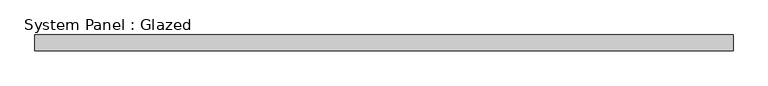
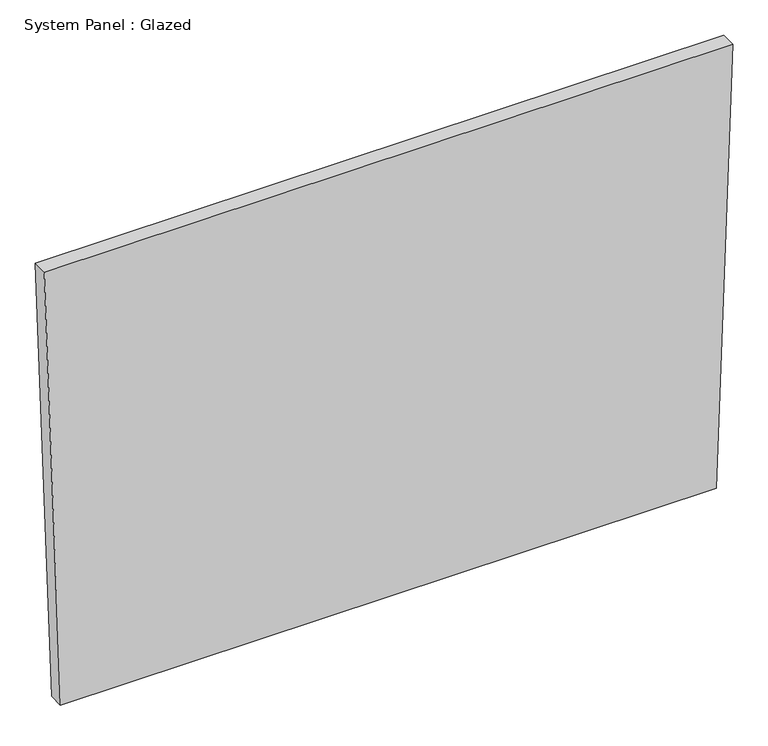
"""IFC4 building model written with IfcOpenShell, lengths in millimetres: plate geometry, System Panel : Glazed."""

import ifcopenshell
import ifcopenshell.guid

model = None  # the IFC model being written
_history = None  # IfcOwnerHistory: only IFC2X3 demands one
_inside = {}  # id of a spatial element -> (the spatial element, [elements in it])
_under = {}  # id of a project, library or spatial element -> (it, [spatial elements below it])
_declared = {}  # id of a project -> (the project, [libraries it declares])
_typed = {}  # id of a type object -> (the type object, [elements of that type])
_made_of = {}  # id of a material, layer set ... -> (it, [elements and type objects made of it])


def new_model(schema):
    """Start an empty IFC model of exactly this schema.

    Asked for "IFC4X3", IfcOpenShell would pick the latest addendum, in which some entities
    have other attributes; the version numbers below select the first issue.
    IFC2X3 requires an IfcOwnerHistory on every rooted entity: one is made here for all.
    """
    global model, _history
    if schema == "IFC4X3":
        model = ifcopenshell.file(schema_version=(4, 3, 0, 0))
    else:
        model = ifcopenshell.file(schema=schema)
    _inside.clear()
    _under.clear()
    _declared.clear()
    _typed.clear()
    _made_of.clear()
    _history = None
    if model.schema == "IFC2X3":
        org = make("IfcOrganization", Name="unknown")
        user = make(
            "IfcPersonAndOrganization",
            ThePerson=make("IfcPerson", FamilyName="unknown"),
            TheOrganization=org,
        )
        app = make(
            "IfcApplication",
            ApplicationDeveloper=org,
            Version="unknown",
            ApplicationFullName="unknown",
            ApplicationIdentifier="unknown",
        )
        _history = make(
            "IfcOwnerHistory",
            OwningUser=user,
            OwningApplication=app,
            ChangeAction="ADDED",
            CreationDate=0,
        )
    return model


def make(cls, **values):
    """One entity of the class cls with the attributes given. An attribute that is None is left unset."""
    return model.create_entity(
        cls, **{name: value for name, value in values.items() if value is not None}
    )


def rooted(cls, **values):
    """An entity with a GlobalId (a new one), such as an element, a storey or a relation."""
    return make(cls, GlobalId=ifcopenshell.guid.new(), OwnerHistory=_history, **values)


def si_unit(unit_type, name, prefix=None):
    """IfcSIUnit, for example si_unit("LENGTHUNIT", "METRE", prefix="MILLI")."""
    return make("IfcSIUnit", UnitType=unit_type, Prefix=prefix, Name=name)


def assignment(units):
    """IfcUnitAssignment: the units of a project."""
    return None if units is None else make("IfcUnitAssignment", Units=units)


def point(xyz):
    """IfcCartesianPoint."""
    return None if xyz is None else make("IfcCartesianPoint", Coordinates=xyz)


def direction(xyz):
    """IfcDirection."""
    return None if xyz is None else make("IfcDirection", DirectionRatios=xyz)


def frame(location, z_axis=None, x_axis=None):
    """IfcAxis2Placement3D, a coordinate frame: its origin and axes. An axis left out is left unset."""
    return make(
        "IfcAxis2Placement3D",
        Location=point(location),
        Axis=direction(z_axis),
        RefDirection=direction(x_axis),
    )


def origin():
    """The frame at (0, 0, 0) with its axes left unset."""
    return frame((0.0, 0.0, 0.0))


def place(relative_to, where):
    """IfcLocalPlacement: puts the frame where relative to a parent placement (None: the world)."""
    return make(
        "IfcLocalPlacement", PlacementRelTo=relative_to, RelativePlacement=where
    )


def context(
    kind, dimensions, precision=None, world=None, true_north=None, identifier=None
):
    """IfcGeometricRepresentationContext, for example the 3D "Model" context."""
    return make(
        "IfcGeometricRepresentationContext",
        ContextIdentifier=identifier,
        ContextType=kind,
        CoordinateSpaceDimension=dimensions,
        Precision=precision,
        WorldCoordinateSystem=world,
        TrueNorth=true_north,
    )


def project(units=None, contexts=None):
    """IfcProject with its units and contexts."""
    return rooted(
        "IfcProject",
        Name="project",
        RepresentationContexts=contexts,
        UnitsInContext=assignment(units),
    )


def spatial(cls, under=None, at=None, **own):
    """A site, building, storey or space (cls), placed at a placement, below another one or the project."""
    s = rooted(cls, ObjectPlacement=at, **own)
    if under is not None:
        _under.setdefault(under.id(), (under, []))[1].append(s)
    return s


def polyline(points):
    """IfcPolyline through the points."""
    return make("IfcPolyline", Points=[point(p) for p in points])


def outline(outer, holes=None, kind="AREA"):
    """IfcArbitraryClosedProfileDef: a profile drawn as a closed curve; with holes, ...WithVoids."""
    if holes is None:
        return make("IfcArbitraryClosedProfileDef", ProfileType=kind, OuterCurve=outer)
    return make(
        "IfcArbitraryProfileDefWithVoids",
        ProfileType=kind,
        OuterCurve=outer,
        InnerCurves=holes,
    )


def extrude(swept, where, along, depth):
    """IfcExtrudedAreaSolid: the profile swept, set in the frame where, extruded along a direction by depth."""
    return make(
        "IfcExtrudedAreaSolid",
        SweptArea=swept,
        Position=where,
        ExtrudedDirection=direction(along),
        Depth=depth,
    )


def shape(context_of_items, identifier, shape_type, items):
    """IfcShapeRepresentation: the items that make up one representation, for example the "Body"."""
    return make(
        "IfcShapeRepresentation",
        ContextOfItems=context_of_items,
        RepresentationIdentifier=identifier,
        RepresentationType=shape_type,
        Items=items,
    )


def source(mapping_origin, context_of_items, identifier, shape_type, items):
    """IfcRepresentationMap: a shape defined once, which mapped items show again and again."""
    return make(
        "IfcRepresentationMap",
        MappingOrigin=mapping_origin,
        MappedRepresentation=shape(context_of_items, identifier, shape_type, items),
    )


def transform(
    local_origin,
    x_axis=None,
    y_axis=None,
    z_axis=None,
    scale=None,
    scale2=None,
    scale3=None,
    uniform=True,
):
    """IfcCartesianTransformationOperator3D, or its non-uniform kind. x_axis, y_axis, z_axis: its Axis1, 2, 3."""
    if uniform:
        return make(
            "IfcCartesianTransformationOperator3D",
            Axis1=direction(x_axis),
            Axis2=direction(y_axis),
            LocalOrigin=point(local_origin),
            Scale=scale,
            Axis3=direction(z_axis),
        )
    return make(
        "IfcCartesianTransformationOperator3DnonUniform",
        Axis1=direction(x_axis),
        Axis2=direction(y_axis),
        LocalOrigin=point(local_origin),
        Scale=scale,
        Axis3=direction(z_axis),
        Scale2=scale2,
        Scale3=scale3,
    )


def mapped(mapping_source, mapping_target):
    """IfcMappedItem: shows the shape of a source again, moved by a transform."""
    return make(
        "IfcMappedItem", MappingSource=mapping_source, MappingTarget=mapping_target
    )


def made_of(thing, what):
    """Note that an element or type object is made of a material, layer set ...; save() writes the relation."""
    if what is not None:
        _made_of.setdefault(what.id(), (what, []))[1].append(thing)
    return thing


def element(
    cls,
    number,
    at=None,
    inside=None,
    cuts=None,
    type_object=None,
    material=None,
    context=None,
    identifier="Body",
    shape_type=None,
    held_by="IfcProductDefinitionShape",
    body=None,
    shapes=None,
    **own,
):
    """One element of the class cls, such as IfcWall. Its Tag is "e" and its number.

    at: its placement. inside: the storey or other place that contains it. cuts: it is an
    opening in that element (IfcRelVoidsElement). A single representation is given by context,
    identifier, shape_type and body (its items); several are given by shapes. held_by: the class
    of the entity that holds the representations. save() writes the other relations.
    """
    e = rooted(cls, Tag="e%d" % number, ObjectPlacement=at, **own)
    if body is not None:
        shapes = [shape(context, identifier, shape_type, body)]
    if shapes is not None:
        e.Representation = make(held_by, Representations=shapes)
    if inside is not None:
        _inside.setdefault(inside.id(), (inside, []))[1].append(e)
    if cuts is not None:
        rooted(
            "IfcRelVoidsElement", RelatingBuildingElement=cuts, RelatedOpeningElement=e
        )
    if type_object is not None:
        _typed.setdefault(type_object.id(), (type_object, []))[1].append(e)
    return made_of(e, material)


def aggregate(whole, parts):
    """IfcRelAggregates: a whole, such as a stair, and the parts it consists of."""
    return rooted("IfcRelAggregates", RelatingObject=whole, RelatedObjects=parts)


def save(model, path):
    """Write the relations noted so far, then the file.

    IfcRelAggregates (storeys below a building ...), IfcRelContainedInSpatialStructure (elements
    in a storey), IfcRelDefinesByType, IfcRelAssociatesMaterial and IfcRelDeclares: one each for
    every whole, place, type object, material and project.
    """
    for whole, parts in _under.values():
        aggregate(whole, parts)
    for where, things in _inside.values():
        rooted(
            "IfcRelContainedInSpatialStructure",
            RelatedElements=things,
            RelatingStructure=where,
        )
    for kind, things in _typed.values():
        rooted("IfcRelDefinesByType", RelatedObjects=things, RelatingType=kind)
    for what, things in _made_of.values():
        rooted("IfcRelAssociatesMaterial", RelatedObjects=things, RelatingMaterial=what)
    for by, libraries in _declared.values():
        rooted("IfcRelDeclares", RelatingContext=by, RelatedDefinitions=libraries)
    model.write(path)


def system_panel_glazed_a134ef64(model_context):
    return source(origin(), model_context, "Body", "SweptSolid", [
        extrude(outline(polyline([(0.0, -538.6688688), (0.0, 538.6688688), (761.5238602, 565.6023122), (761.5238602, -565.6023122), (0.0, -538.6688688)])), frame((0.0, -44.45, 0.0), z_axis=(0.0, 1.0, 0.0), x_axis=(0.0, 0.0, 1.0)), (0.0, 0.0, 1.0), 25.4),
    ])


if __name__ == "__main__":
    model = new_model("IFC4")
    model_context = context("Model", 3, world=origin())
    ifc_project = project(units=[si_unit("LENGTHUNIT", "METRE", prefix="MILLI")], contexts=[model_context])
    site = spatial("IfcSite", under=ifc_project)
    building = spatial("IfcBuilding", under=site)
    placement = place(None, origin())
    system_panel_glazed_shape = system_panel_glazed_a134ef64(model_context)
    element("IfcPlate", 1, ObjectType="System Panel : Glazed", at=placement, inside=building, context=model_context, shape_type="MappedRepresentation", body=[
        mapped(system_panel_glazed_shape, transform((0.0, 0.0, 0.0), x_axis=(1.0, 0.0, 0.0), y_axis=(0.0, 1.0, 0.0), z_axis=(0.0, 0.0, 1.0))),
    ])
    save(model, "model.ifc")
